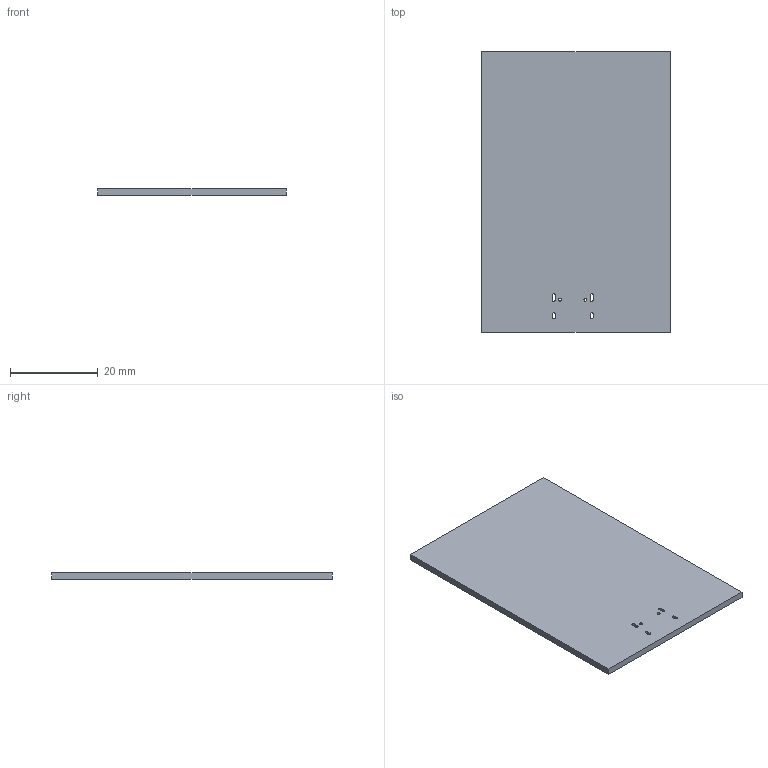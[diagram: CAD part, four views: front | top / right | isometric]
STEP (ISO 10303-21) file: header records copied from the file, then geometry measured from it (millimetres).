
FILE_DESCRIPTION(('KiCad electronic assembly'),'2;1');
FILE_NAME('pic_programmer.step','2026-06-01T23:58:21',('Pcbnew'),( 'Kicad'),'Open CASCADE STEP processor 7.6','KiCad to STEP converter' ,'Unknown');
FILE_SCHEMA(('AUTOMOTIVE_DESIGN { 1 0 10303 214 1 1 1 1 }'));
Length unit declared in the file: millimetre
Products named in the file (2): pic_programmer 1; flysys_vario_PCB
Assembly tree (1 placements, depth 2):
  pic_programmer 1
    flysys_vario_PCB
Bounding box: 43 x 64 x 1.51 mm (x, y, z)
Volume: 4148.6 mm3; surface area: 5847.7 mm2
Topology: 1 solids, 1 shells, 24 faces, 66 edges, 44 vertices
Faces by surface type: plane 14, cylinder 10
Full cylindrical faces by diameter (mm): 0.65 x2
Entity records: 831 total; most frequent: DIRECTION 138, CARTESIAN_POINT 136, ORIENTED_EDGE 132, EDGE_CURVE 66, AXIS2_PLACEMENT_3D 46, LINE 46, VECTOR 46, VERTEX_POINT 44
